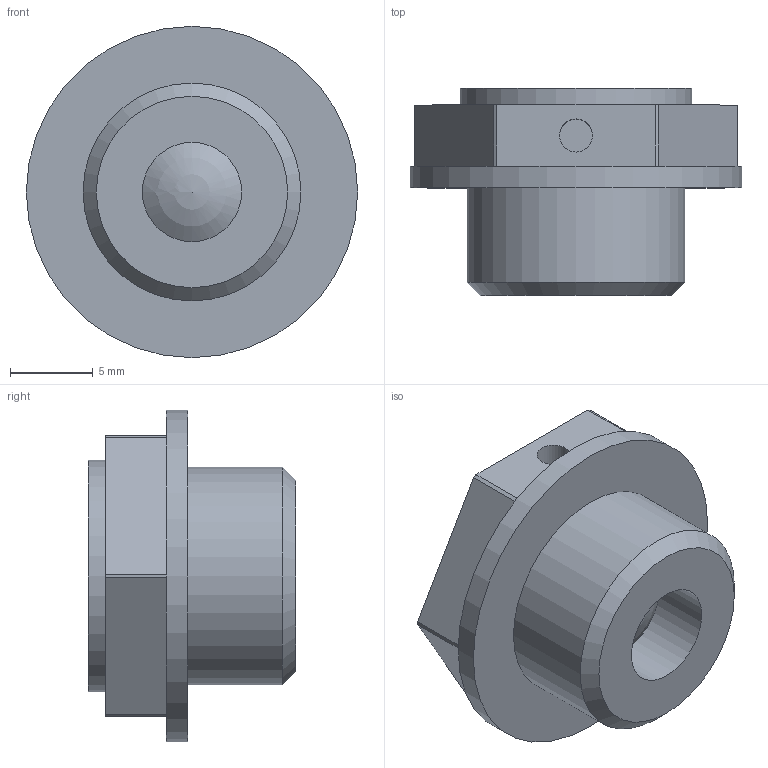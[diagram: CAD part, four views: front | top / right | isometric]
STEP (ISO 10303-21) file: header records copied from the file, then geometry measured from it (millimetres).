
FILE_DESCRIPTION( ( 'STEP AP203' ), '1' );
FILE_NAME( 'C:/Temp/Ganter_Step_05_03_2020/data/3_5/gn883/Breather valve GN 883-G1_4-20-A-MS.stp', '2020-03-12T13:42:45', ( 'License CC BY-ND 4.0' ), ( 'CADENAS' ), ' ', 'PARTsolutions', ' ' );
FILE_SCHEMA( ( 'CONFIG_CONTROL_DESIGN' ) );
Length unit declared in the file: millimetre
Products named in the file (1): _Breather valve GN 883-G1/4-20-A-MS
Bounding box: 20 x 12.5 x 20 mm (x, y, z)
Volume: 2244 mm3; surface area: 1344.9 mm2
Topology: 1 solids, 1 shells, 25 faces, 57 edges, 38 vertices
Faces by surface type: plane 12, cylinder 11, sphere 1, cone 1
Full cylindrical faces by diameter (mm): 2 x1, 6 x1, 13.157 x1, 14 x1, 20 x1
Entity records: 700 total; most frequent: DIRECTION 122, CARTESIAN_POINT 109, ORIENTED_EDGE 94, AXIS2_PLACEMENT_3D 49, EDGE_CURVE 47, EDGE_LOOP 36, VERTEX_POINT 36, FACE_OUTER_BOUND 30
